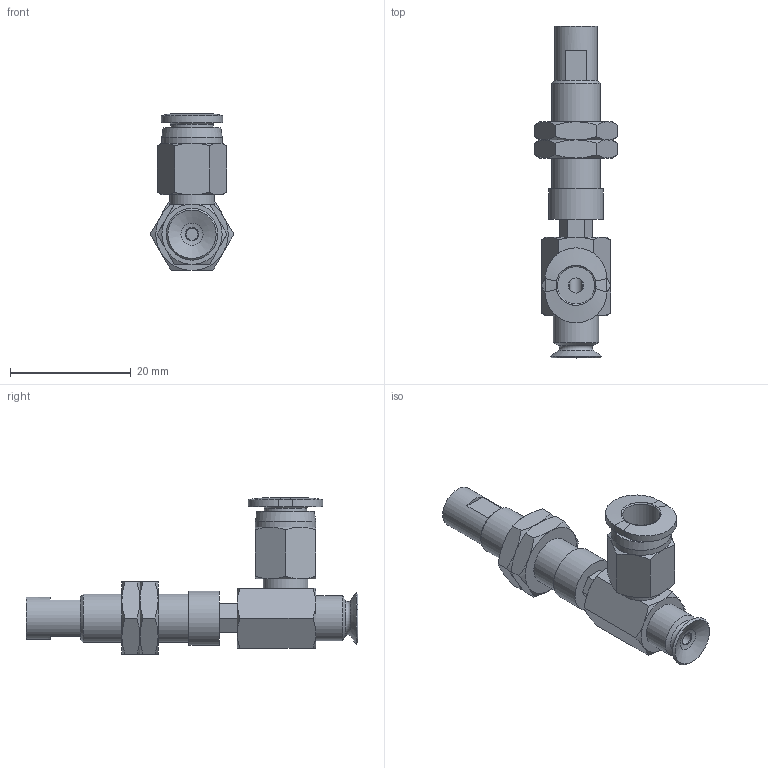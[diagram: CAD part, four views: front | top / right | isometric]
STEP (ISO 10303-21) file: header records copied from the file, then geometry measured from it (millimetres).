
FILE_DESCRIPTION(('STEP AP203'),'1');
FILE_NAME('-O.stp','2025-04-10T03:11:39',(' '),(' '),'Spatial InterOp 3D',' ',' ');
FILE_SCHEMA(('CONFIG_CONTROL_DESIGN'));
Length unit declared in the file: millimetre
Products named in the file (7): BNABPFYH-8A-3-※-O; CONNECTOR-H-8A-3; Nut-8A-3-h; NAPFTH-8A-3-FBODY; NAPFTH-8A-3-MBODY; BPFG-8A-※; PC-C_06-M5
Assembly tree (7 placements, depth 2):
  BNABPFYH-8A-3-※-O
    CONNECTOR-H-8A-3
    Nut-8A-3-h  x2
    NAPFTH-8A-3-FBODY
    NAPFTH-8A-3-MBODY
    BPFG-8A-※
    PC-C_06-M5
Bounding box: 13.86 x 55 x 25.98 mm (x, y, z)
Volume: 3273.3 mm3; surface area: 5077.7 mm2
Topology: 6 solids, 9 shells, 190 faces, 404 edges, 245 vertices
Faces by surface type: plane 79, cone 67, cylinder 24, torus 12, bspline 5, revolution 3
Full cylindrical faces by diameter (mm): 2 x2, 4 x4, 4.134 x2, 5 x2, 6 x2, 7 x2, 7.188 x2, 7.4 x1, 7.5 x1, 8 x1, 8.2 x1, 9 x1, 10 x1
Entity records: 4979 total; most frequent: CARTESIAN_POINT 1401, DIRECTION 663, ORIENTED_EDGE 586, EDGE_CURVE 295, AXIS2_PLACEMENT_3D 283, EDGE_LOOP 244, VERTEX_POINT 207, FACE_OUTER_BOUND 141
